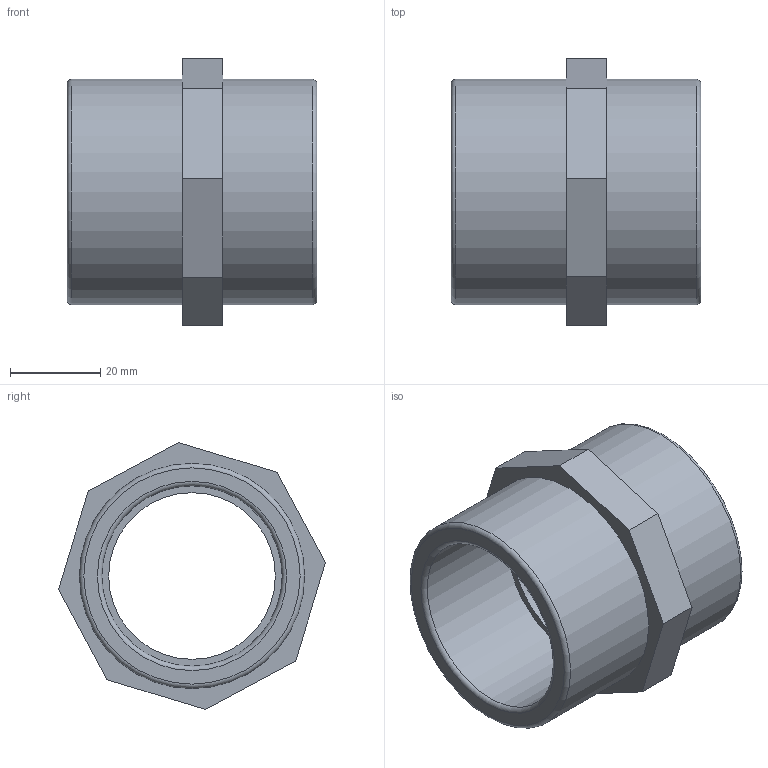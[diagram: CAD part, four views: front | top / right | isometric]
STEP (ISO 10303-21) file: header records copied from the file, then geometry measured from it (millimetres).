
FILE_DESCRIPTION(/* description */ (''),/* implementation_level */ '2;1');
FILE_NAME(/* name */ 'C:\Users\Gabriele\Desktop\disegni 3D\SO12\SO12040E.ipt.stp',/* time_stamp */ '2017-02-10T09:52:37+01:00',/* author */ ('Eugenio'),/* organization */ (''),/* preprocessor_version */ 'ST-DEVELOPER v16.5',/* originating_system */ 'Autodesk Inventor 2017',/* authorisation */ '');
FILE_SCHEMA (('AUTOMOTIVE_DESIGN { 1 0 10303 214 3 1 1 }'));
Length unit declared in the file: millimetre
Products named in the file (1): SO12040E
Bounding box: 55.4 x 59.25 x 59.25 mm (x, y, z)
Volume: 44717.6 mm3; surface area: 25858.4 mm2
Topology: 2 solids, 2 shells, 33 faces, 73 edges, 48 vertices
Faces by surface type: plane 16, cylinder 7, bspline 6, torus 4
Full cylindrical faces by diameter (mm): 37 x1, 40 x1, 41.91 x2, 50 x2
Entity records: 4985 total; most frequent: CARTESIAN_POINT 4310, ORIENTED_EDGE 122, DIRECTION 116, EDGE_CURVE 61, EDGE_LOOP 51, VERTEX_POINT 46, AXIS2_PLACEMENT_3D 46, FACE_OUTER_BOUND 33
